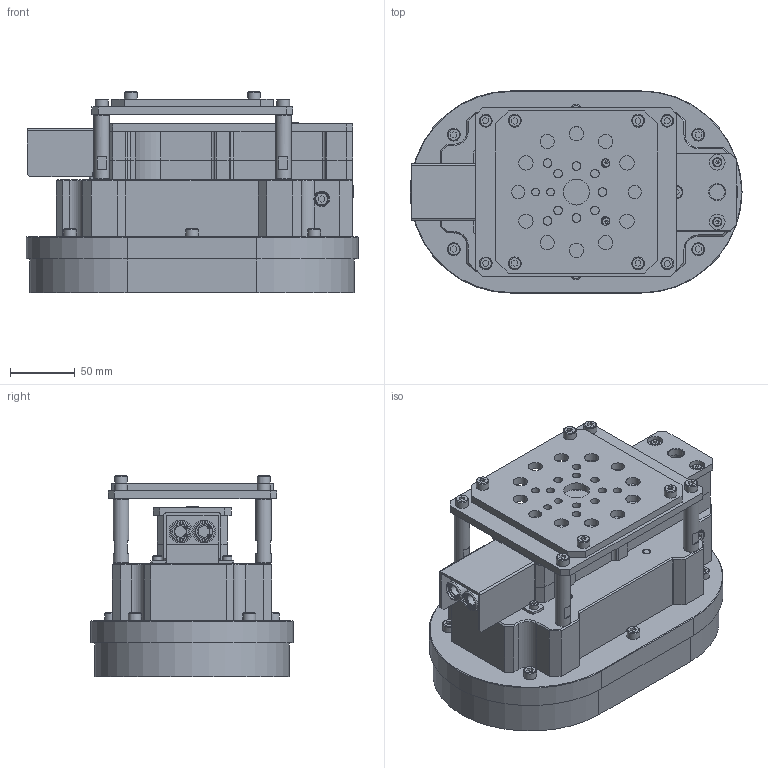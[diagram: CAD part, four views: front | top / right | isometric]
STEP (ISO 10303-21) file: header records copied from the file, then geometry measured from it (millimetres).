
FILE_DESCRIPTION(('STEP AP214'),'1');
FILE_NAME('SGP-H2B-150X250-CRT30.stp','2024-06-28T04:15:59',(' '),(' '),'Spatial InterOp 3D',' ',' ');
FILE_SCHEMA(('AUTOMOTIVE_DESIGN { 1 0 10303 214 1 1 1 1 }'));
Length unit declared in the file: millimetre
Products named in the file (87): SGP-H2-150X250-CRT30; Body; VフィルターAssy; SGP-000-3101(Vフィルタ); SGP-000-3101(Vフィルタ押さえ板); _NKJ3-4; CB4; ねじ: 穴付き - M4.0 x 8.0; COVER; SGP CVZ Assy; プラグ; SGP-サイレンサ; CTX-0418-3000; CTX-0418-3001; CTX-0418-3002; RTWS13; M4*45; _FCBS4-40-10; M4*45低頭ボルト; SGP-000-3050(供給ベース); CVZ-015-3002; CBSTS6-12; Stopper; shaft 02; shaft 03; PAD; Ring; Base; CB6; ねじ : 穴付き - M6.0 x 12.0; SETGR12-50; M6.0 x 10.0; FLプレートB; _SGP-FL-B-f
Assembly tree (86 placements, depth 5):
  SGP-H2-150X250-CRT30
    Body
    VフィルターAssy
      SGP-000-3101(Vフィルタ)
      SGP-000-3101(Vフィルタ押さえ板)
      _NKJ3-4
      _NKJ3-4
      _NKJ3-4
      _NKJ3-4
    CB4
      ねじ: 穴付き - M4.0 x 8.0
    CB4
      ねじ: 穴付き - M4.0 x 8.0
    COVER
    SGP CVZ Assy
      プラグ
      SGP-サイレンサ
        CTX-0418-3000
        CTX-0418-3001
        CTX-0418-3002
        CTX-0418-3002
        RTWS13
      SGP-サイレンサ
        CTX-0418-3000
        CTX-0418-3001
        CTX-0418-3002
        CTX-0418-3002
        RTWS13
      M4*45低頭ボルト
        M4*45
          _FCBS4-40-10
        M4*45
          _FCBS4-40-10
        M4*45
          _FCBS4-40-10
        M4*45
          _FCBS4-40-10
        M4*45
          _FCBS4-40-10
        M4*45
          _FCBS4-40-10
      SGP-000-3050(供給ベース)
      CVZ-015-3002
      CVZ-015-3002
      プラグ
      プラグ
    CBSTS6-12
    CBSTS6-12
    CBSTS6-12
    CBSTS6-12
    Stopper
    shaft 02
    shaft 03
    shaft 03
    shaft 02
    shaft 02
    shaft 03
    shaft 03
    shaft 02
    PAD
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Bounding box: 256 x 156 x 155.12 mm (x, y, z)
Volume: 1506126.5 mm3; surface area: 519187.2 mm2
Topology: 67 solids, 67 shells, 1576 faces, 3626 edges, 2355 vertices
Faces by surface type: plane 912, cylinder 502, cone 144, torus 14, sphere 4
Full cylindrical faces by diameter (mm): 1.5 x4, 2.693 x4, 3 x12, 3.5 x8, 4 x26, 4.4 x4, 4.5 x12, 4.917 x4, 5 x20, 6 x46, 6.6 x15, 6.9 x2, 7 x20, 8.5 x2, 9 x4, 9.4 x2, 9.87 x14, 10 x32, 10.5 x3, 11 x10, 11.4 x2, 11.8 x2, 12 x12, 13 x16, 13.6 x4, 13.85 x4, 14.5 x4, 14.8 x2, 15 x20, 16 x4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
Entity records: 57907 total; most frequent: CARTESIAN_POINT 7777, DIRECTION 7661, ORIENTED_EDGE 6134, EDGE_CURVE 3067, AXIS2_PLACEMENT_3D 2942, EDGE_LOOP 2523, VERTEX_POINT 2292, FACE_OUTER_BOUND 1912
